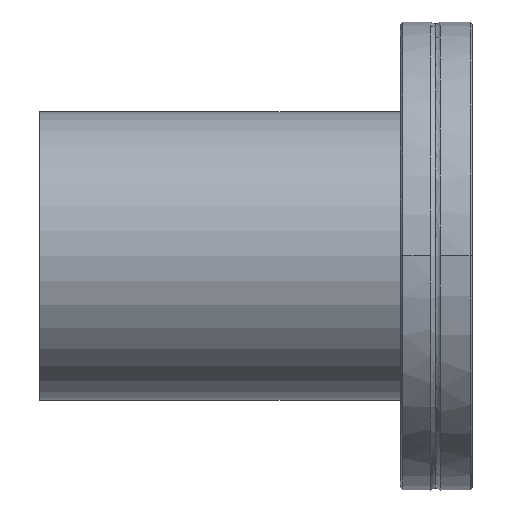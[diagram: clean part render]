
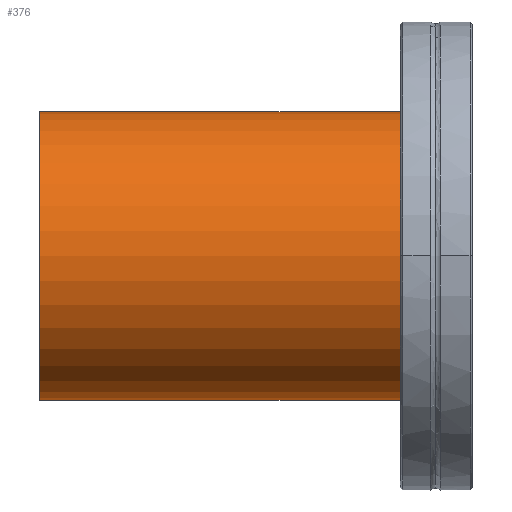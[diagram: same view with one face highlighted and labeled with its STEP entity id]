
A CAD part, top view. The second image highlights one B-rep face of the part: STEP entity #376.
In plain terms, the highlighted cylindrical face has radius 35 mm (diameter 70 mm), a partial arc.
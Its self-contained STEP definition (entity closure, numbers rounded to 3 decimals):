
#335=CARTESIAN_POINT('',(47.75,0.,0.0));
#336=DIRECTION('',(1.0,0.,0.0));
#337=DIRECTION('',(0.0,1.0,0.0));
#338=AXIS2_PLACEMENT_3D('',#335,#336,#337);
#339=CYLINDRICAL_SURFACE('',#338,35.);
#340=CARTESIAN_POINT('',(0.,35.,0.0));
#341=VERTEX_POINT('',#340);
#342=CARTESIAN_POINT('',(95.5,35.,0.0));
#343=VERTEX_POINT('',#342);
#344=CARTESIAN_POINT('',(0.,35.,0.0));
#345=DIRECTION('',(1.0,0.0,0.0));
#346=VECTOR('',#345,95.5);
#347=LINE('',#344,#346);
#348=EDGE_CURVE('',#341,#343,#347,.T.);
#349=ORIENTED_EDGE('',*,*,#348,.F.);
#350=CARTESIAN_POINT('',(0.,-35.,0.));
#351=VERTEX_POINT('',#350);
#352=CARTESIAN_POINT('',(0.,0.,0.0));
#353=DIRECTION('',(1.0,0.0,0.0));
#354=DIRECTION('',(0.0,1.0,0.0));
#355=AXIS2_PLACEMENT_3D('',#352,#353,#354);
#356=CIRCLE('',#355,35.);
#357=EDGE_CURVE('',#341,#351,#356,.T.);
#358=ORIENTED_EDGE('',*,*,#357,.T.);
#359=CARTESIAN_POINT('',(95.5,-35.,0.));
#360=VERTEX_POINT('',#359);
#361=CARTESIAN_POINT('',(95.5,-35.,0.));
#362=DIRECTION('',(-1.0,0.0,0.0));
#363=VECTOR('',#362,95.5);
#364=LINE('',#361,#363);
#365=EDGE_CURVE('',#360,#351,#364,.T.);
#366=ORIENTED_EDGE('',*,*,#365,.F.);
#367=CARTESIAN_POINT('',(95.5,0.,0.0));
#368=DIRECTION('',(1.0,0.0,0.0));
#369=DIRECTION('',(0.0,1.0,0.0));
#370=AXIS2_PLACEMENT_3D('',#367,#368,#369);
#371=CIRCLE('',#370,35.);
#372=EDGE_CURVE('',#343,#360,#371,.T.);
#373=ORIENTED_EDGE('',*,*,#372,.F.);
#374=EDGE_LOOP('',(#349,#358,#366,#373));
#375=FACE_OUTER_BOUND('',#374,.T.);
#376=ADVANCED_FACE('',(#375),#339,.T.);
